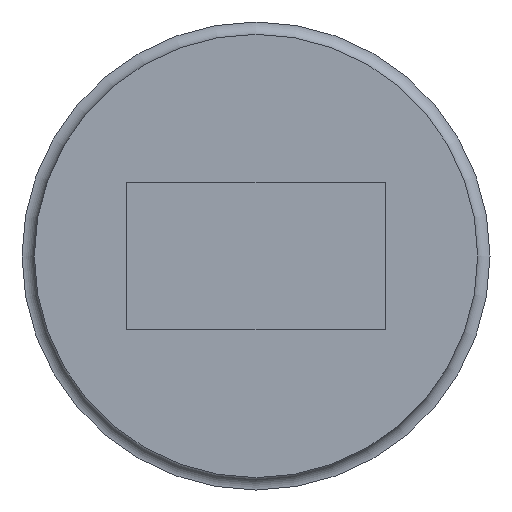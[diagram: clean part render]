
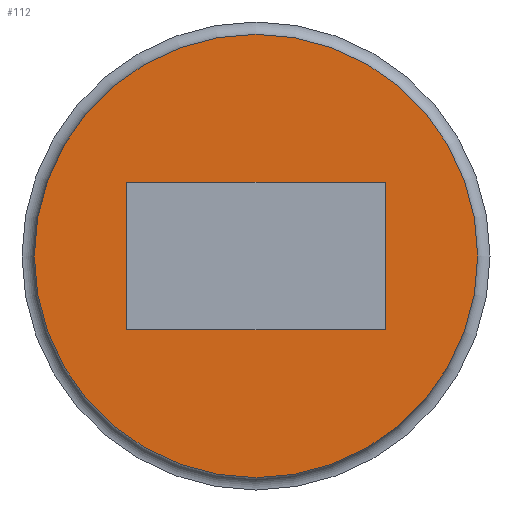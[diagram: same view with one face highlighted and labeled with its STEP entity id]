
A CAD part, front view. The second image highlights one B-rep face of the part: STEP entity #112.
In plain terms, the highlighted planar face has unit normal (0, -1, 0).
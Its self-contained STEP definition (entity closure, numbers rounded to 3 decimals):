
#21=FACE_BOUND('',#47,.T.);
#22=LINE('',#191,#28);
#23=LINE('',#193,#29);
#24=LINE('',#195,#30);
#25=LINE('',#196,#31);
#28=VECTOR('',#155,1000.);
#29=VECTOR('',#156,1000.);
#30=VECTOR('',#157,1000.);
#31=VECTOR('',#158,1000.);
#40=FACE_OUTER_BOUND('',#46,.T.);
#46=EDGE_LOOP('',(#86));
#47=EDGE_LOOP('',(#87,#88,#89,#90));
#52=CIRCLE('',#135,4.5);
#59=VERTEX_POINT('',#189);
#60=VERTEX_POINT('',#190);
#61=VERTEX_POINT('',#192);
#62=VERTEX_POINT('',#194);
#63=VERTEX_POINT('',#198);
#69=EDGE_CURVE('',#59,#60,#22,.T.);
#70=EDGE_CURVE('',#61,#59,#23,.T.);
#71=EDGE_CURVE('',#62,#61,#24,.T.);
#72=EDGE_CURVE('',#60,#62,#25,.T.);
#73=EDGE_CURVE('',#63,#63,#52,.T.);
#86=ORIENTED_EDGE('',*,*,#73,.T.);
#87=ORIENTED_EDGE('',*,*,#70,.T.);
#88=ORIENTED_EDGE('',*,*,#69,.T.);
#89=ORIENTED_EDGE('',*,*,#72,.T.);
#90=ORIENTED_EDGE('',*,*,#71,.T.);
#109=PLANE('',#134);
#112=ADVANCED_FACE('',(#40,#21),#109,.T.);
#134=AXIS2_PLACEMENT_3D('',#197,#159,#160);
#135=AXIS2_PLACEMENT_3D('',#199,#161,#162);
#155=DIRECTION('',(0.,0.,-1.));
#156=DIRECTION('',(1.,0.,0.));
#157=DIRECTION('',(0.,0.,1.));
#158=DIRECTION('',(-1.,0.,0.));
#159=DIRECTION('center_axis',(0.,-1.,0.));
#160=DIRECTION('ref_axis',(0.,0.,-1.));
#161=DIRECTION('center_axis',(0.,-1.,0.));
#162=DIRECTION('ref_axis',(0.,0.,-1.));
#189=CARTESIAN_POINT('',(2.625,-6.,1.5));
#190=CARTESIAN_POINT('',(2.625,-6.,-1.5));
#191=CARTESIAN_POINT('',(2.625,-6.,0.));
#192=CARTESIAN_POINT('',(-2.625,-6.,1.5));
#193=CARTESIAN_POINT('',(0.,-6.,1.5));
#194=CARTESIAN_POINT('',(-2.625,-6.,-1.5));
#195=CARTESIAN_POINT('',(-2.625,-6.,0.));
#196=CARTESIAN_POINT('',(0.,-6.,-1.5));
#197=CARTESIAN_POINT('Origin',(0.,-6.,0.));
#198=CARTESIAN_POINT('',(0.,-6.,-4.5));
#199=CARTESIAN_POINT('Origin',(0.,-6.,0.));
